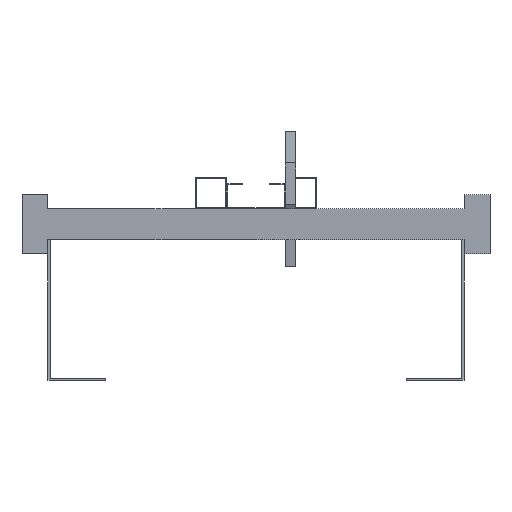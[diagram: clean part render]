
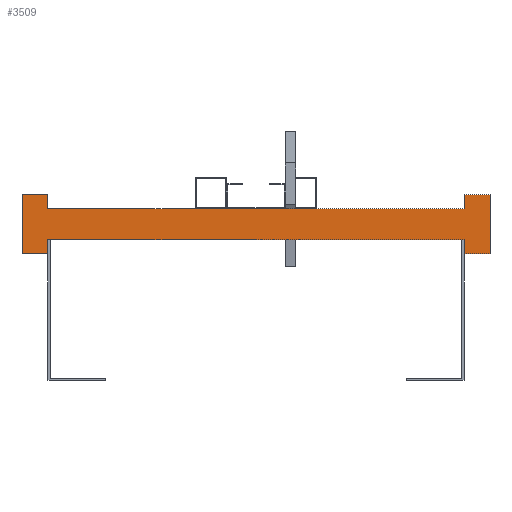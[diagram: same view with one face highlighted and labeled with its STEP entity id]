
A CAD part, front view. The second image highlights one B-rep face of the part: STEP entity #3509.
In plain terms, the highlighted planar face has unit normal (0, -1, 0).
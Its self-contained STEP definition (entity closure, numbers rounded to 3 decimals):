
#1269=DIRECTION('',(0.,0.,1.));
#1270=VECTOR('',#1269,13.5);
#1271=CARTESIAN_POINT('',(200.,0.,-28.5));
#1272=LINE('',#1271,#1270);
#1273=DIRECTION('',(0.,0.,-1.));
#1274=VECTOR('',#1273,13.5);
#1275=CARTESIAN_POINT('',(-200.,0.,-15.));
#1276=LINE('',#1275,#1274);
#1277=DIRECTION('',(-1.,0.,0.));
#1278=VECTOR('',#1277,25.);
#1279=CARTESIAN_POINT('',(-200.,0.,-28.5));
#1280=LINE('',#1279,#1278);
#1281=DIRECTION('',(0.,0.,1.));
#1282=VECTOR('',#1281,57.);
#1283=CARTESIAN_POINT('',(-225.,0.,-28.5));
#1284=LINE('',#1283,#1282);
#1285=DIRECTION('',(1.,0.,0.));
#1286=VECTOR('',#1285,25.);
#1287=CARTESIAN_POINT('',(-225.,0.,28.5));
#1288=LINE('',#1287,#1286);
#1289=DIRECTION('',(0.,0.,-1.));
#1290=VECTOR('',#1289,13.5);
#1291=CARTESIAN_POINT('',(-200.,0.,28.5));
#1292=LINE('',#1291,#1290);
#1293=DIRECTION('',(0.,0.,1.));
#1294=VECTOR('',#1293,13.5);
#1295=CARTESIAN_POINT('',(200.,0.,15.));
#1296=LINE('',#1295,#1294);
#1297=DIRECTION('',(1.,0.,0.));
#1298=VECTOR('',#1297,25.);
#1299=CARTESIAN_POINT('',(200.,0.,28.5));
#1300=LINE('',#1299,#1298);
#1301=DIRECTION('',(0.,0.,-1.));
#1302=VECTOR('',#1301,57.);
#1303=CARTESIAN_POINT('',(225.,0.,28.5));
#1304=LINE('',#1303,#1302);
#1305=DIRECTION('',(-1.,0.,0.));
#1306=VECTOR('',#1305,25.);
#1307=CARTESIAN_POINT('',(225.,0.,-28.5));
#1308=LINE('',#1307,#1306);
#1309=DIRECTION('',(1.,0.,0.));
#1310=VECTOR('',#1309,400.);
#1311=CARTESIAN_POINT('',(-200.,0.,-15.));
#1312=LINE('',#1311,#1310);
#1321=DIRECTION('',(1.,0.,0.));
#1322=VECTOR('',#1321,400.);
#1323=CARTESIAN_POINT('',(-200.,0.,15.));
#1324=LINE('',#1323,#1322);
#1393=CARTESIAN_POINT('',(-225.,0.,28.5));
#1394=CARTESIAN_POINT('',(-200.,0.,28.5));
#1395=VERTEX_POINT('',#1393);
#1396=VERTEX_POINT('',#1394);
#1397=CARTESIAN_POINT('',(-200.,0.,-28.5));
#1398=CARTESIAN_POINT('',(-225.,0.,-28.5));
#1399=VERTEX_POINT('',#1397);
#1400=VERTEX_POINT('',#1398);
#1401=CARTESIAN_POINT('',(225.,0.,28.5));
#1402=CARTESIAN_POINT('',(225.,0.,-28.5));
#1403=VERTEX_POINT('',#1401);
#1404=VERTEX_POINT('',#1402);
#1405=CARTESIAN_POINT('',(200.,0.,-28.5));
#1406=VERTEX_POINT('',#1405);
#1407=CARTESIAN_POINT('',(200.,0.,28.5));
#1408=VERTEX_POINT('',#1407);
#1425=CARTESIAN_POINT('',(-200.,0.,-15.));
#1427=VERTEX_POINT('',#1425);
#1429=CARTESIAN_POINT('',(-200.,0.,15.));
#1431=VERTEX_POINT('',#1429);
#1433=CARTESIAN_POINT('',(200.,0.,-15.));
#1435=VERTEX_POINT('',#1433);
#1437=CARTESIAN_POINT('',(200.,0.,15.));
#1439=VERTEX_POINT('',#1437);
#3484=CARTESIAN_POINT('',(0.,0.,0.));
#3485=DIRECTION('',(0.,1.,0.));
#3486=DIRECTION('',(1.,0.,0.));
#3487=AXIS2_PLACEMENT_3D('',#3484,#3485,#3486);
#3488=PLANE('',#3487);
#3489=ORIENTED_EDGE('',*,*,#2128,.T.);
#3491=ORIENTED_EDGE('',*,*,#3490,.F.);
#3492=ORIENTED_EDGE('',*,*,#1892,.T.);
#3493=ORIENTED_EDGE('',*,*,#2839,.T.);
#3495=ORIENTED_EDGE('',*,*,#3494,.T.);
#3497=ORIENTED_EDGE('',*,*,#3496,.T.);
#3498=ORIENTED_EDGE('',*,*,#1900,.T.);
#3500=ORIENTED_EDGE('',*,*,#3499,.T.);
#3501=ORIENTED_EDGE('',*,*,#2120,.T.);
#3503=ORIENTED_EDGE('',*,*,#3502,.T.);
#3505=ORIENTED_EDGE('',*,*,#3504,.T.);
#3506=ORIENTED_EDGE('',*,*,#3150,.T.);
#3507=EDGE_LOOP('',(#3489,#3491,#3492,#3493,#3495,#3497,#3498,#3500,#3501,#3503,
#3505,#3506));
#3508=FACE_OUTER_BOUND('',#3507,.F.);
#1892=EDGE_CURVE('',#1427,#1399,#1276,.T.);
#1900=EDGE_CURVE('',#1396,#1431,#1292,.T.);
#2120=EDGE_CURVE('',#1439,#1408,#1296,.T.);
#2128=EDGE_CURVE('',#1406,#1435,#1272,.T.);
#2839=EDGE_CURVE('',#1399,#1400,#1280,.T.);
#3150=EDGE_CURVE('',#1404,#1406,#1308,.T.);
#3490=EDGE_CURVE('',#1427,#1435,#1312,.T.);
#3494=EDGE_CURVE('',#1400,#1395,#1284,.T.);
#3496=EDGE_CURVE('',#1395,#1396,#1288,.T.);
#3499=EDGE_CURVE('',#1431,#1439,#1324,.T.);
#3502=EDGE_CURVE('',#1408,#1403,#1300,.T.);
#3504=EDGE_CURVE('',#1403,#1404,#1304,.T.);
#3509=ADVANCED_FACE('',(#3508),#3488,.F.);
